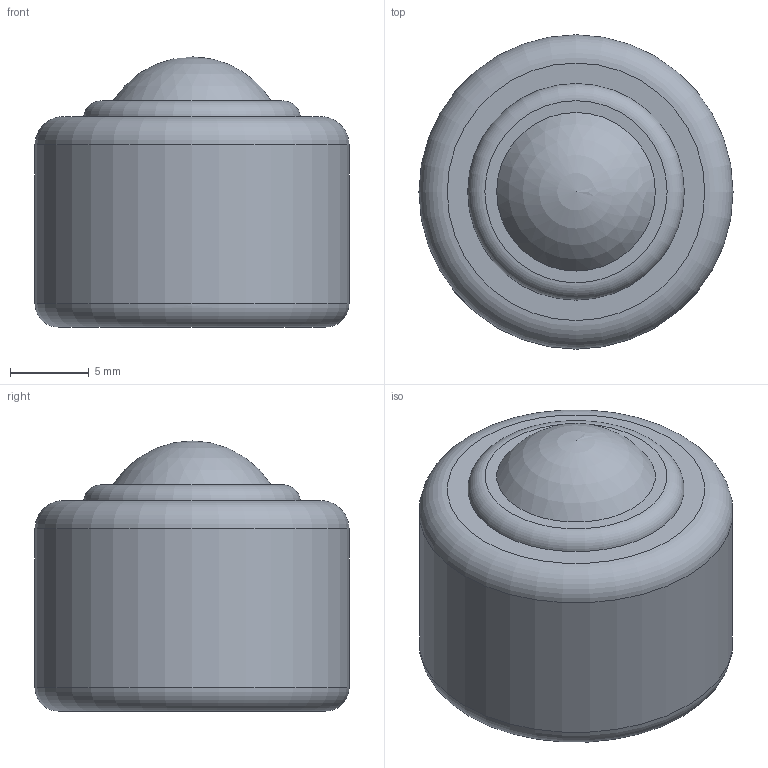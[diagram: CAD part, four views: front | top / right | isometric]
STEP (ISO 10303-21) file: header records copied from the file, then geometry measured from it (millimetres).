
FILE_DESCRIPTION(/* description */ (''),/* implementation_level */ '2;1');
FILE_NAME(/* name */ 'Z:\85-ドキュメント\亜紀 様\UM-12・16B\UM-12B.stp',/* time_stamp */ '2015-07-25T18:01:24+09:00',/* author */ ('m-susga'),/* organization */ (''),/* preprocessor_version */ 'ST-DEVELOPER v16.1',/* originating_system */ 'Autodesk Inventor 2016',/* authorisation */ '');
FILE_SCHEMA (('AUTOMOTIVE_DESIGN { 1 0 10303 214 3 1 1 }'));
Length unit declared in the file: millimetre
Products named in the file (1): UM-12B
Bounding box: 20 x 20 x 17.2 mm (x, y, z)
Volume: 4400.8 mm3; surface area: 1426 mm2
Topology: 1 solids, 1 shells, 8 faces, 14 edges, 9 vertices
Faces by surface type: torus 3, plane 3, cylinder 1, sphere 1
Full cylindrical faces by diameter (mm): 20 x1
Entity records: 186 total; most frequent: DIRECTION 32, CARTESIAN_POINT 23, AXIS2_PLACEMENT_3D 16, EDGE_LOOP 14, ORIENTED_EDGE 14, FACE_OUTER_BOUND 8, ADVANCED_FACE 8, CIRCLE 7
